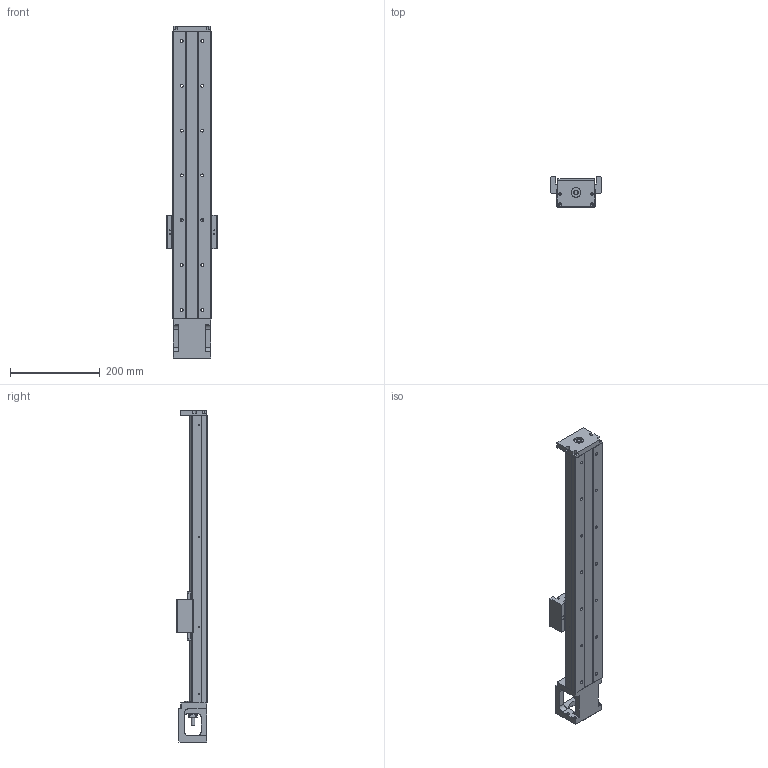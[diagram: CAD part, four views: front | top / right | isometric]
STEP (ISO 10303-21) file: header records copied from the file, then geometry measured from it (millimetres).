
FILE_DESCRIPTION(/* description */ (''),/* implementation_level */ '2;1');
FILE_NAME(/* name */ '46L-640.stp',/* time_stamp */ '2016-12-20T13:59:17+08:00',/* author */ (''),/* organization */ (''),/* preprocessor_version */ 'ST-DEVELOPER v11',/* originating_system */ 'SIEMENS UGS NX 6.0',/* authorisation */ '');
FILE_SCHEMA (('AUTOMOTIVE_DESIGN { 1 0 10303 214 1 1 1 1 }'));
Length unit declared in the file: millimetre
Products named in the file (1): model4
Bounding box: 112 x 68 x 740 mm (x, y, z)
Volume: 1677417.2 mm3; surface area: 362617 mm2
Topology: 6 solids, 14 shells, 707 faces, 1842 edges, 1207 vertices
Faces by surface type: plane 332, cylinder 253, cone 61, bspline 53, torus 8
Full cylindrical faces by diameter (mm): 2.11 x4, 2.15 x8, 2.42 x8, 2.5 x4, 3 x6, 3.2 x4, 3.3 x12, 3.4 x8, 4.2 x4, 4.5 x8, 5 x14, 6 x8, 6.35 x2, 6.6 x14, 8 x1, 9.6 x1, 10 x3, 11 x14, 12 x1, 14.95 x2, 15 x1, 16 x2, 22 x3, 27.5 x1, 44 x1, 50 x1
Entity records: 31952 total; most frequent: CARTESIAN_POINT 13337, ORIENTED_EDGE 3158, DIRECTION 3075, EDGE_CURVE 1579, AXIS2_PLACEMENT_3D 1136, VERTEX_POINT 1132, EDGE_LOOP 1003, LINE 803
